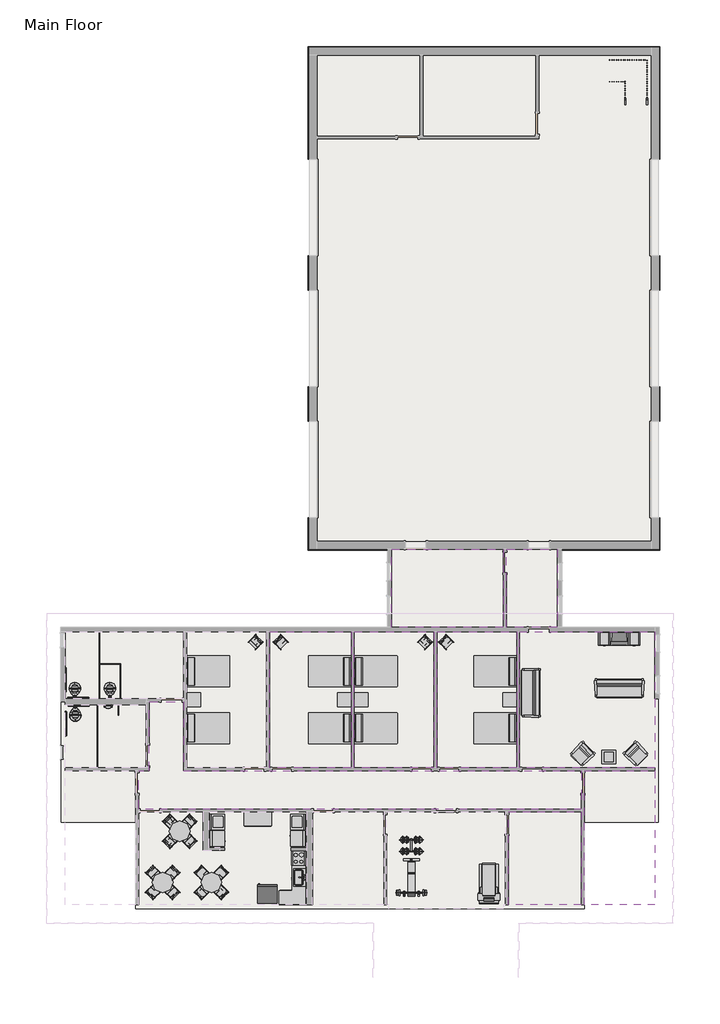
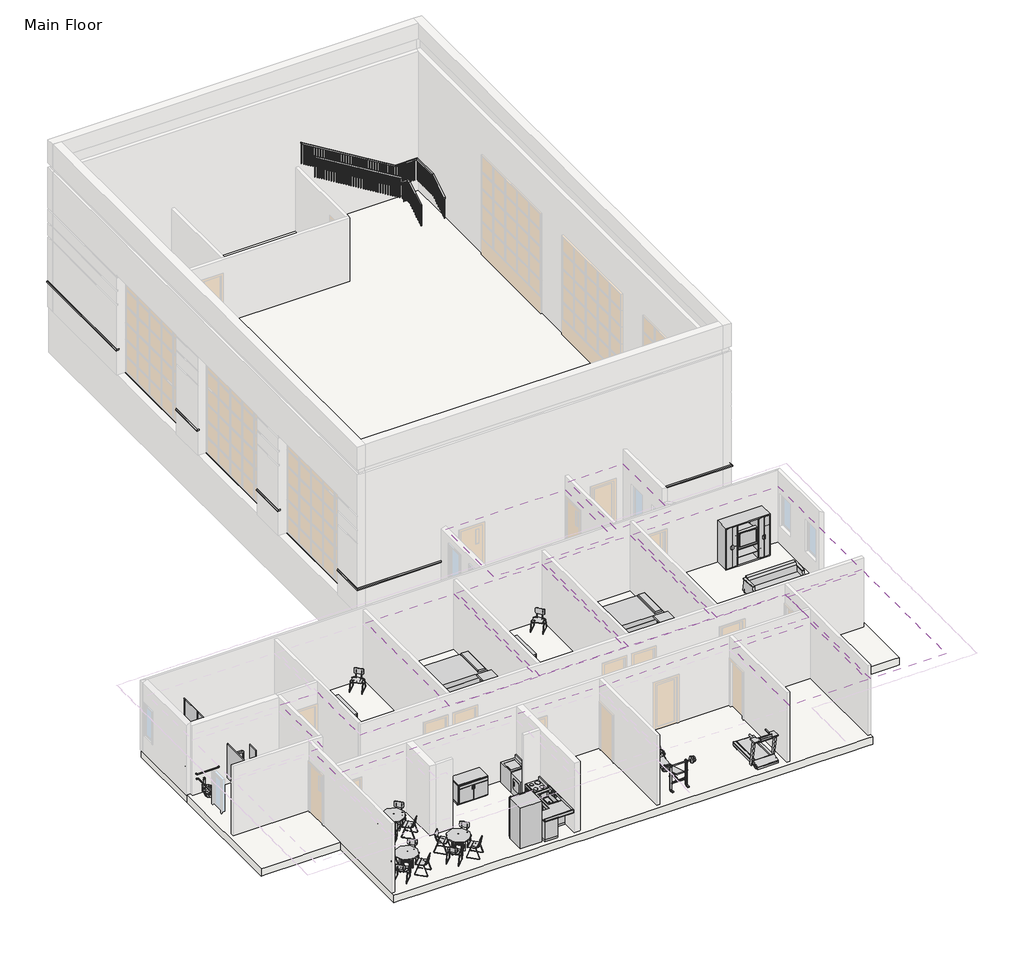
# One storey, part 3 of 3: 43 furniture elements, 19 proxies, 9 coverings, 5 flow terminals, 3 slabs, 2 railings.
"""IFC4 building model written with IfcOpenShell, lengths in millimetres."""

from ifc_helpers import new_model, si_unit, frame, origin, place, context, project, spatial, polyline, outline, extrude, faceted_brep, transform, mapped, element, save
from components import generic_models_a89b188b, proxy_d1f9c5cb, grab_bar_3d_grab_bar_3d_00f4341b, grab_bar_3d_grab_bar_3d_a3ed3e83, lifting_bench_lifting_bench_aed266a5, proxy_1dfdf5de, proxy_9109806d, proxy_7c43ef90, toilet_stall_accessible_side2_3d_80249481, proxy_d61e7b09, treadmill_treadmill_b01bba42, urinal_screen_3d_0714b669, proxy_c277ec9f, flow_terminal_4af5d52b, flow_terminal_35d0ae41, flow_terminal_6a37c47e, urinal_wall_3d_urinal_wall_3d_7ec34c28, furniture_81a1514d, furniture_f167ba72, furniture_94963ca6, furniture_0253826f, furniture_5d01f4a4, chair_stacking_chair_stacking_74314eac, chair_stacking_chair_stacking_724ac724, furniture_e91ff8d8, furniture_22e119cc, furniture_ddc78764, furniture_ec003247, furniture_6a91d5e0, furniture_fb1f61f5, furniture_b5c51a22, furniture_ed8ac5fb, furniture_5bc9ed15, furniture_00647945, furniture_099e81e9, handrail_rectangular_a6d9fd62, handrail_rectangular_f1ce3a24

model = new_model("IFC4")

# Units and contexts
model_context = context("Model", 3, world=origin())
ifc_project = project(units=[si_unit("LENGTHUNIT", "METRE", prefix="MILLI")], contexts=[model_context])

# Site, building, storey
site = spatial("IfcSite", under=ifc_project)
building = spatial("IfcBuilding", under=site)
storey = spatial("IfcBuildingStorey", under=building, Name="Main Floor", Elevation=42672.0)

# Proxies
placement = place(None, origin())
element("IfcBuildingElementProxy", 1, Name="Wall Sweeps", at=placement, inside=storey, context=model_context, shape_type="Brep", body=[
    faceted_brep([(-14757.4292336, 21962.9855156, 43808.65), (-14849.5042336, 22055.0605156, 43808.65), (-14884.4292336, 22089.9855156, 43764.2), (-14884.4292336, 22089.9855156, 43738.8), (-14757.4292336, 21962.9855156, 43738.8), (549.2457664, 21962.9855156, 43808.65), (549.2457664, 21962.9855156, 43738.8), (676.2457664, 22089.9855156, 43738.8), (676.2457664, 22089.9855156, 43764.2), (641.3207664, 22055.0605156, 43808.65), (288.8957664, 21962.9855156, 43808.65), (288.8957664, 21962.9855156, 43738.8)], [[[0, 1, 2, 3, 4]], [[5, 6, 7, 8, 9]], [[1, 0, 10, 5, 9]], [[2, 1, 9, 8]], [[3, 2, 8, 7]], [[4, 3, 7, 6, 11]], [[0, 4, 11, 6, 5, 10]]]),
])
element("IfcBuildingElementProxy", 2, Name="Wall Sweeps", at=placement, inside=storey, context=model_context, shape_type="Brep", body=[
    faceted_brep([(-14757.4292336, -49.2894844, 43808.65), (-14849.5042336, -141.3644844, 43808.65), (-14884.4292336, -176.2894844, 43764.2), (-14884.4292336, -176.2894844, 43738.8), (-14757.4292336, -49.2894844, 43738.8), (-14757.4292336, 1254.0480156, 43808.65), (-14757.4292336, 1254.0480156, 43738.8), (-14849.5042336, 1254.0480156, 43738.8), (-14884.4292336, 1254.0480156, 43738.8), (-14884.4292336, 1254.0480156, 43764.2), (-14849.5042336, 1254.0480156, 43808.65)], [[[0, 1, 2, 3, 4]], [[5, 6, 7, 8, 9, 10]], [[1, 0, 5, 10]], [[2, 1, 10, 9]], [[3, 2, 9, 8]], [[4, 3, 8, 7, 6]], [[0, 4, 6, 5]]]),
    faceted_brep([(-14757.4292336, 5521.2480156, 43808.65), (-14849.5042336, 5521.2480156, 43808.65), (-14884.4292336, 5521.2480156, 43764.2), (-14884.4292336, 5521.2480156, 43738.8), (-14849.5042336, 5521.2480156, 43738.8), (-14757.4292336, 5521.2480156, 43738.8), (-14757.4292336, 7045.2480156, 43808.65), (-14757.4292336, 7045.2480156, 43738.8), (-14849.5042336, 7045.2480156, 43738.8), (-14884.4292336, 7045.2480156, 43738.8), (-14884.4292336, 7045.2480156, 43764.2), (-14849.5042336, 7045.2480156, 43808.65)], [[[0, 1, 2, 3, 4, 5]], [[6, 7, 8, 9, 10, 11]], [[1, 0, 6, 11]], [[2, 1, 11, 10]], [[3, 2, 10, 9]], [[5, 4, 3, 9, 8, 7]], [[0, 5, 7, 6]]]),
    faceted_brep([(-14757.4292336, 11312.4480156, 43808.65), (-14849.5042336, 11312.4480156, 43808.65), (-14884.4292336, 11312.4480156, 43764.2), (-14884.4292336, 11312.4480156, 43738.8), (-14849.5042336, 11312.4480156, 43738.8), (-14757.4292336, 11312.4480156, 43738.8), (-14757.4292336, 12836.4480156, 43808.65), (-14757.4292336, 12836.4480156, 43738.8), (-14849.5042336, 12836.4480156, 43738.8), (-14884.4292336, 12836.4480156, 43738.8), (-14884.4292336, 12836.4480156, 43764.2), (-14849.5042336, 12836.4480156, 43808.65)], [[[0, 1, 2, 3, 4, 5]], [[6, 7, 8, 9, 10, 11]], [[1, 0, 6, 11]], [[2, 1, 11, 10]], [[3, 2, 10, 9]], [[5, 4, 3, 9, 8, 7]], [[0, 5, 7, 6]]]),
    faceted_brep([(-14757.4292336, 17103.6480156, 43808.65), (-14849.5042336, 17103.6480156, 43808.65), (-14884.4292336, 17103.6480156, 43764.2), (-14884.4292336, 17103.6480156, 43738.8), (-14849.5042336, 17103.6480156, 43738.8), (-14757.4292336, 17103.6480156, 43738.8), (-14757.4292336, 21962.9855156, 43808.65), (-14757.4292336, 21962.9855156, 43738.8), (-14884.4292336, 22089.9855156, 43738.8), (-14884.4292336, 22089.9855156, 43764.2), (-14849.5042336, 22055.0605156, 43808.65), (-14757.4292336, 21702.6355156, 43808.65), (-14757.4292336, 21702.6355156, 43738.8)], [[[0, 1, 2, 3, 4, 5]], [[6, 7, 8, 9, 10]], [[1, 0, 11, 6, 10]], [[2, 1, 10, 9]], [[3, 2, 9, 8]], [[5, 4, 3, 8, 7, 12]], [[0, 5, 12, 7, 6, 11]]]),
])
element("IfcBuildingElementProxy", 3, Name="Wall Sweeps", at=placement, inside=storey, context=model_context, shape_type="Brep", body=[
    faceted_brep([(549.2457664, -49.2894844, 43808.65), (641.3207664, -141.3644844, 43808.65), (676.2457664, -176.2894844, 43764.2), (676.2457664, -176.2894844, 43738.8), (549.2457664, -49.2894844, 43738.8), (-3668.7417336, -49.2894844, 43808.65), (-3668.7417336, -49.2894844, 43738.8), (-3668.7417336, -141.3644844, 43738.8), (-3668.7417336, -176.2894844, 43738.8), (-3668.7417336, -176.2894844, 43764.2), (-3668.7417336, -141.3644844, 43808.65), (288.8957664, -49.2894844, 43808.65), (288.8957664, -49.2894844, 43738.8)], [[[0, 1, 2, 3, 4]], [[5, 6, 7, 8, 9, 10]], [[1, 0, 11, 5, 10]], [[2, 1, 10, 9]], [[3, 2, 9, 8]], [[4, 3, 8, 7, 6, 12]], [[0, 4, 12, 6, 5, 11]]]),
    faceted_brep([(-11379.2292336, -49.2894844, 43808.65), (-11379.2292336, -141.3644844, 43808.65), (-11379.2292336, -176.2894844, 43764.2), (-11379.2292336, -176.2894844, 43738.8), (-11379.2292336, -141.3644844, 43738.8), (-11379.2292336, -49.2894844, 43738.8), (-14757.4292336, -49.2894844, 43808.65), (-14757.4292336, -49.2894844, 43738.8), (-14884.4292336, -176.2894844, 43738.8), (-14884.4292336, -176.2894844, 43764.2), (-14849.5042336, -141.3644844, 43808.65), (-14497.0792336, -49.2894844, 43808.65), (-14497.0792336, -49.2894844, 43738.8)], [[[0, 1, 2, 3, 4, 5]], [[6, 7, 8, 9, 10]], [[1, 0, 11, 6, 10]], [[2, 1, 10, 9]], [[3, 2, 9, 8]], [[5, 4, 3, 8, 7, 12]], [[0, 5, 12, 7, 6, 11]]]),
])
element("IfcBuildingElementProxy", 4, Name="Wall Sweeps", at=placement, inside=storey, context=model_context, shape_type="Brep", body=[
    faceted_brep([(549.2457664, 21962.9855156, 43808.65), (641.3207664, 22055.0605156, 43808.65), (676.2457664, 22089.9855156, 43764.2), (676.2457664, 22089.9855156, 43738.8), (549.2457664, 21962.9855156, 43738.8), (549.2457664, 17103.6480156, 43808.65), (549.2457664, 17103.6480156, 43738.8), (641.3207664, 17103.6480156, 43738.8), (676.2457664, 17103.6480156, 43738.8), (676.2457664, 17103.6480156, 43764.2), (641.3207664, 17103.6480156, 43808.65)], [[[0, 1, 2, 3, 4]], [[5, 6, 7, 8, 9, 10]], [[1, 0, 5, 10]], [[2, 1, 10, 9]], [[3, 2, 9, 8]], [[4, 3, 8, 7, 6]], [[0, 4, 6, 5]]]),
    faceted_brep([(549.2457664, 12836.4480156, 43808.65), (641.3207664, 12836.4480156, 43808.65), (676.2457664, 12836.4480156, 43764.2), (676.2457664, 12836.4480156, 43738.8), (641.3207664, 12836.4480156, 43738.8), (549.2457664, 12836.4480156, 43738.8), (549.2457664, 11312.4480156, 43808.65), (549.2457664, 11312.4480156, 43738.8), (641.3207664, 11312.4480156, 43738.8), (676.2457664, 11312.4480156, 43738.8), (676.2457664, 11312.4480156, 43764.2), (641.3207664, 11312.4480156, 43808.65)], [[[0, 1, 2, 3, 4, 5]], [[6, 7, 8, 9, 10, 11]], [[1, 0, 6, 11]], [[2, 1, 11, 10]], [[3, 2, 10, 9]], [[5, 4, 3, 9, 8, 7]], [[0, 5, 7, 6]]]),
    faceted_brep([(549.2457664, 7045.2480156, 43808.65), (641.3207664, 7045.2480156, 43808.65), (676.2457664, 7045.2480156, 43764.2), (676.2457664, 7045.2480156, 43738.8), (641.3207664, 7045.2480156, 43738.8), (549.2457664, 7045.2480156, 43738.8), (549.2457664, 5521.2480156, 43808.65), (549.2457664, 5521.2480156, 43738.8), (641.3207664, 5521.2480156, 43738.8), (676.2457664, 5521.2480156, 43738.8), (676.2457664, 5521.2480156, 43764.2), (641.3207664, 5521.2480156, 43808.65)], [[[0, 1, 2, 3, 4, 5]], [[6, 7, 8, 9, 10, 11]], [[1, 0, 6, 11]], [[2, 1, 11, 10]], [[3, 2, 10, 9]], [[5, 4, 3, 9, 8, 7]], [[0, 5, 7, 6]]]),
    faceted_brep([(549.2457664, 1254.0480156, 43808.65), (641.3207664, 1254.0480156, 43808.65), (676.2457664, 1254.0480156, 43764.2), (676.2457664, 1254.0480156, 43738.8), (641.3207664, 1254.0480156, 43738.8), (549.2457664, 1254.0480156, 43738.8), (549.2457664, -49.2894844, 43808.65), (549.2457664, -49.2894844, 43738.8), (676.2457664, -176.2894844, 43738.8), (676.2457664, -176.2894844, 43764.2), (641.3207664, -141.3644844, 43808.65)], [[[0, 1, 2, 3, 4, 5]], [[6, 7, 8, 9, 10]], [[1, 0, 6, 10]], [[2, 1, 10, 9]], [[3, 2, 9, 8]], [[5, 4, 3, 8, 7]], [[0, 5, 7, 6]]]),
])
generic_models_shape = generic_models_a89b188b(model_context)
element("IfcBuildingElementProxy", 5, Name="Weights-Multiple : Weights-Multiple", ObjectType="Weights-Multiple : Weights-Multiple", at=placement, inside=storey, context=model_context, shape_type="MappedRepresentation", body=[
    mapped(generic_models_shape, transform((-10317.1575596, -12985.0150905, 42672.0), x_axis=(0.0, -1.0, 0.0), y_axis=(1.0, 0.0, 0.0), z_axis=(0.0, 0.0, 1.0))),
])
proxy_shape = proxy_d1f9c5cb(model_context)
element("IfcBuildingElementProxy", 6, Name="Dryer : 27\" x 25\" x 35\"", ObjectType="Dryer : 27\" x 25\" x 35\"", at=placement, inside=storey, context=model_context, shape_type="MappedRepresentation", body=[
    mapped(proxy_shape, transform((-18587.7307298, -13299.7269407, 42672.0), x_axis=(0.0, 1.0, 0.0), y_axis=(-1.0, 0.0, 0.0), z_axis=(0.0, 0.0, 1.0))),
])
element("IfcBuildingElementProxy", 7, Name="Dryer : 27\" x 25\" x 35\"", ObjectType="Dryer : 27\" x 25\" x 35\"", at=placement, inside=storey, context=model_context, shape_type="MappedRepresentation", body=[
    mapped(proxy_shape, transform((-15656.8012307, -12541.7520281, 42672.0), x_axis=(0.0, -1.0, 0.0), y_axis=(1.0, 0.0, 0.0), z_axis=(0.0, 0.0, 1.0))),
])
grab_bar_3d_grab_bar_3d_shape = grab_bar_3d_grab_bar_3d_00f4341b(model_context)
element("IfcBuildingElementProxy", 8, Name="Grab Bar-3D : Grab Bar-3D", ObjectType="Grab Bar-3D : Grab Bar-3D", at=placement, inside=storey, context=model_context, shape_type="MappedRepresentation", body=[
    mapped(grab_bar_3d_grab_bar_3d_shape, transform((-25642.9167336, -7007.3019844, 42672.0), x_axis=(-1.0, 0.0, 0.0), y_axis=(0.0, -1.0, 0.0), z_axis=(0.0, 0.0, 1.0))),
])
grab_bar_3d_grab_bar_3d_2_shape = grab_bar_3d_grab_bar_3d_a3ed3e83(model_context)
element("IfcBuildingElementProxy", 9, Name="Grab Bar-3D : Grab Bar-3D", ObjectType="Grab Bar-3D : Grab Bar-3D", at=placement, inside=storey, context=model_context, shape_type="MappedRepresentation", body=[
    mapped(grab_bar_3d_grab_bar_3d_2_shape, transform((-25661.9667336, -6746.9519844, 42672.0), x_axis=(-1.0, 0.0, 0.0), y_axis=(0.0, -1.0, 0.0), z_axis=(0.0, 0.0, 1.0))),
])
lifting_bench_lifting_bench_shape = lifting_bench_lifting_bench_aed266a5(model_context)
element("IfcBuildingElementProxy", 10, Name="Lifting Bench : Lifting Bench", ObjectType="Lifting Bench : Lifting Bench", at=placement, inside=storey, context=model_context, shape_type="MappedRepresentation", body=[
    mapped(lifting_bench_lifting_bench_shape, transform((-10672.7575596, -13822.4394844, 42672.0), x_axis=(1.0, 0.0, 0.0), y_axis=(0.0, 1.0, 0.0), z_axis=(0.0, 0.0, 1.0))),
])
proxy_2_shape = proxy_1dfdf5de(model_context)
element("IfcBuildingElementProxy", 11, Name="Range : 24\" x 24\"", ObjectType="Range : 24\" x 24\"", at=placement, inside=storey, context=model_context, shape_type="MappedRepresentation", body=[
    mapped(proxy_2_shape, transform((-15609.9167336, -13492.2394844, 42672.0), x_axis=(0.0, -1.0, 0.0), y_axis=(1.0, 0.0, 0.0), z_axis=(0.0, 0.0, 1.0))),
])
proxy_3_shape = proxy_9109806d(model_context)
element("IfcBuildingElementProxy", 12, Name="Refrigerator : 35\" x 32\" RH", ObjectType="Refrigerator : 35\" x 32\" RH", at=placement, inside=storey, context=model_context, shape_type="MappedRepresentation", body=[
    mapped(proxy_3_shape, transform((-16688.7652351, -15389.6905129, 42672.0), x_axis=(-1.0, 0.0, 0.0), y_axis=(0.0, -1.0, 0.0), z_axis=(0.0, 0.0, 1.0))),
])
proxy_4_shape = proxy_7c43ef90(model_context)
element("IfcBuildingElementProxy", 13, Name="Toilet Stall-3D : 36\" x 60\" Clear", ObjectType="Toilet Stall-3D : 36\" x 60\" Clear", at=placement, inside=storey, context=model_context, shape_type="MappedRepresentation", body=[
    mapped(proxy_4_shape, transform((-23250.4635798, -6877.1269844, 42672.0), x_axis=(-1.0, 0.0, 0.0), y_axis=(0.0, -1.0, 0.0), z_axis=(0.0, 0.0, 1.0))),
])
toilet_stall_accessible_side2_3d_shape = toilet_stall_accessible_side2_3d_80249481(model_context)
element("IfcBuildingElementProxy", 14, Name="Toilet Stall-Accessible-Side2-3D : 60\" x  110\"", ObjectType="Toilet Stall-Accessible-Side2-3D : 60\" x  110\"", at=placement, inside=storey, context=model_context, shape_type="MappedRepresentation", body=[
    mapped(toilet_stall_accessible_side2_3d_shape, transform((-24874.4760798, -6877.1269844, 42672.0), x_axis=(-1.0, 0.0, 0.0), y_axis=(0.0, -1.0, 0.0), z_axis=(0.0, 0.0, 1.0))),
])
proxy_5_shape = proxy_d61e7b09(model_context)
element("IfcBuildingElementProxy", 15, Name="Toilet Stall-Accessible-Side2-3D : 60\" x 117\"", ObjectType="Toilet Stall-Accessible-Side2-3D : 60\" x 117\"", at=placement, inside=storey, context=model_context, shape_type="MappedRepresentation", body=[
    mapped(proxy_5_shape, transform((-24799.8635798, -6877.1269844, 42672.0), x_axis=(-1.0, 0.0, 0.0), y_axis=(0.0, -1.0, 0.0), z_axis=(0.0, 0.0, 1.0))),
])
treadmill_treadmill_shape = treadmill_treadmill_b01bba42(model_context)
element("IfcBuildingElementProxy", 16, Name="Treadmill : Treadmill", ObjectType="Treadmill : Treadmill", at=placement, inside=storey, context=model_context, shape_type="MappedRepresentation", body=[
    mapped(treadmill_treadmill_shape, transform((-7332.6917336, -15803.6394844, 42672.0), x_axis=(1.0, 0.0, 0.0), y_axis=(0.0, 1.0, 0.0), z_axis=(0.0, 0.0, 1.0))),
])
urinal_screen_3d_shape = urinal_screen_3d_0714b669(model_context)
element("IfcBuildingElementProxy", 17, Name="Urinal Screen-3D : 36\" O.C.", ObjectType="Urinal Screen-3D : 36\" O.C.", at=placement, inside=storey, context=model_context, shape_type="MappedRepresentation", body=[
    mapped(urinal_screen_3d_shape, transform((-23272.7792336, -6877.1269844, 42672.0), x_axis=(-1.0, 0.0, 0.0), y_axis=(0.0, -1.0, 0.0), z_axis=(0.0, 0.0, 1.0))),
])
proxy_6_shape = proxy_c277ec9f(model_context)
element("IfcBuildingElementProxy", 18, Name="Washer : 27\" x 25\" x 35\"", ObjectType="Washer : 27\" x 25\" x 35\"", at=placement, inside=storey, context=model_context, shape_type="MappedRepresentation", body=[
    mapped(proxy_6_shape, transform((-18623.2421688, -12604.5569529, 42672.0), x_axis=(0.0, 1.0, 0.0), y_axis=(-1.0, 0.0, 0.0), z_axis=(0.0, 0.0, 1.0))),
])
element("IfcBuildingElementProxy", 19, Name="Washer : 27\" x 25\" x 35\"", ObjectType="Washer : 27\" x 25\" x 35\"", at=placement, inside=storey, context=model_context, shape_type="MappedRepresentation", body=[
    mapped(proxy_6_shape, transform((-15621.2897917, -11763.7220159, 42672.0), x_axis=(0.0, -1.0, 0.0), y_axis=(1.0, 0.0, 0.0), z_axis=(0.0, 0.0, 1.0))),
])

# Coverings
element("IfcCovering", 20, ObjectType="2' x 2' ACT System", at=placement, inside=storey, context=model_context, shape_type="SweptSolid", body=[
    extrude(outline(polyline([(-2797.2042336, -11750.7519844), (-2797.2042336, -15862.3769844), (-6026.1792336, -15862.3769844), (-6026.1792336, -11750.7519844), (-2797.2042336, -11750.7519844)])), frame((0.0, 0.0, 45110.4), z_axis=(0.0, 0.0, 1.0), x_axis=(1.0, 0.0, 0.0)), (0.0, 0.0, 1.0), 57.15),
])
element("IfcCovering", 21, ObjectType="2' x 2' ACT System", at=placement, inside=storey, context=model_context, shape_type="SweptSolid", body=[
    extrude(outline(polyline([(-5529.2917336, -3778.3269844), (461.9332664, -3778.3269844), (461.9332664, -6746.9519844), (461.9332664, -9798.1269844), (-5529.2917336, -9798.1269844), (-5529.2917336, -3778.3269844)])), frame((0.0, 0.0, 45110.4), z_axis=(0.0, 0.0, 1.0), x_axis=(1.0, 0.0, 0.0)), (0.0, 0.0, 1.0), 57.15),
])
element("IfcCovering", 22, ObjectType="2' x 2' ACT System", at=placement, inside=storey, context=model_context, shape_type="SweptSolid", body=[
    extrude(outline(polyline([(-9186.8917336, -3778.3269844), (-5653.1167336, -3778.3269844), (-5653.1167336, -9798.1269844), (-9186.8917336, -9798.1269844), (-9186.8917336, -3778.3269844)])), frame((0.0, 0.0, 45110.4), z_axis=(0.0, 0.0, 1.0), x_axis=(1.0, 0.0, 0.0)), (0.0, 0.0, 1.0), 57.15),
])
element("IfcCovering", 23, ObjectType="2' x 2' ACT System", at=placement, inside=storey, context=model_context, shape_type="SweptSolid", body=[
    extrude(outline(polyline([(-12844.4917336, -3778.3269844), (-9310.7167336, -3778.3269844), (-9310.7167336, -9798.1269844), (-12844.4917336, -9798.1269844), (-12844.4917336, -3778.3269844)])), frame((0.0, 0.0, 45110.4), z_axis=(0.0, 0.0, 1.0), x_axis=(1.0, 0.0, 0.0)), (0.0, 0.0, 1.0), 57.15),
])
element("IfcCovering", 24, ObjectType="2' x 2' ACT System", at=placement, inside=storey, context=model_context, shape_type="SweptSolid", body=[
    extrude(outline(polyline([(-16592.5792336, -3778.3269844), (-12968.3167336, -3778.3269844), (-12968.3167336, -9798.1269844), (-16592.5792336, -9798.1269844), (-16592.5792336, -3778.3269844)])), frame((0.0, 0.0, 45110.4), z_axis=(0.0, 0.0, 1.0), x_axis=(1.0, 0.0, 0.0)), (0.0, 0.0, 1.0), 57.15),
])
element("IfcCovering", 25, ObjectType="GWB on Mtl. Stud", at=placement, inside=storey, context=model_context, shape_type="SweptSolid", body=[
    extrude(outline(polyline([(461.9332664, -15862.3769844), (-2673.3792336, -15862.3769844), (-2673.3792336, -9921.9519844), (461.9332664, -9921.9519844), (461.9332664, -15862.3769844)])), frame((0.0, 0.0, 45110.4), z_axis=(0.0, 0.0, 1.0), x_axis=(1.0, 0.0, 0.0)), (0.0, 0.0, 1.0), 107.95),
])
element("IfcCovering", 26, ObjectType="GWB on Mtl. Stud", at=placement, inside=storey, context=model_context, shape_type="SweptSolid", body=[
    extrude(outline(polyline([(-20385.1167336, -6870.7769844), (-20385.1167336, -9921.9519844), (-2797.2042336, -9921.9519844), (-2797.2042336, -11626.9269844), (-22383.7792336, -11626.9269844), (-22383.7792336, -9921.9519844), (-21926.5792336, -9921.9519844), (-21926.5792336, -6870.7769844), (-20385.1167336, -6870.7769844)])), frame((0.0, 0.0, 45262.8), z_axis=(0.0, 0.0, 1.0), x_axis=(1.0, 0.0, 0.0)), (0.0, 0.0, 1.0), 107.95),
])
element("IfcCovering", 27, ObjectType="GWB on Mtl. Stud", at=placement, inside=storey, context=model_context, shape_type="SweptSolid", body=[
    extrude(outline(polyline([(-6243.6667336, -141.3644844), (-6243.6667336, -3591.0019844), (-11191.9042336, -3591.0019844), (-11191.9042336, -141.3644844), (-6243.6667336, -141.3644844)])), frame((0.0, 0.0, 45110.4), z_axis=(0.0, 0.0, 1.0), x_axis=(1.0, 0.0, 0.0)), (0.0, 0.0, 1.0), 107.95),
])
element("IfcCovering", 28, ObjectType="GWB on Mtl. Stud", at=placement, inside=storey, context=model_context, shape_type="SweptSolid", body=[
    extrude(outline(polyline([(-3856.0667336, -3591.0019844), (-6119.8417336, -3591.0019844), (-6119.8417336, -141.3644844), (-3856.0667336, -141.3644844), (-3856.0667336, -3591.0019844)])), frame((0.0, 0.0, 45415.2), z_axis=(0.0, 0.0, 1.0), x_axis=(1.0, 0.0, 0.0)), (0.0, 0.0, 1.0), 107.95),
])

# Flow terminals
flow_terminal_shape = flow_terminal_4af5d52b(model_context)
element("IfcFlowTerminal", 29, ObjectType="Sink Kitchen-Single : 30\" x 21\"", at=placement, inside=storey, context=model_context, shape_type="MappedRepresentation", body=[
    mapped(flow_terminal_shape, transform((-15275.7121347, -14627.4877439, 42672.0), x_axis=(0.0, -1.0, 0.0), y_axis=(1.0, 0.0, 0.0), z_axis=(0.0, 0.0, 1.0))),
])
flow_terminal_2_shape = flow_terminal_35d0ae41(model_context)
element("IfcFlowTerminal", 30, ObjectType="Toilet-Commercial-Wall-3D : 15\" Seat Height", at=placement, inside=storey, context=model_context, shape_type="MappedRepresentation", body=[
    mapped(flow_terminal_2_shape, transform((-24060.2698874, -6877.1269844, 42672.0), x_axis=(1.0, 0.0, 0.0), y_axis=(0.0, 1.0, 0.0), z_axis=(0.0, 0.0, 1.0))),
])
element("IfcFlowTerminal", 31, ObjectType="Toilet-Commercial-Wall-3D : 15\" Seat Height", at=placement, inside=storey, context=model_context, shape_type="MappedRepresentation", body=[
    mapped(flow_terminal_2_shape, transform((-24780.8135798, -6877.1269844, 42672.0), x_axis=(-1.0, 0.0, 0.0), y_axis=(0.0, -1.0, 0.0), z_axis=(0.0, 0.0, 1.0))),
])
flow_terminal_3_shape = flow_terminal_6a37c47e(model_context)
element("IfcFlowTerminal", 32, ObjectType="Toilet-Commercial-Wall-3D : 19\" Seat Height", at=placement, inside=storey, context=model_context, shape_type="MappedRepresentation", body=[
    mapped(flow_terminal_3_shape, transform((-25609.6698874, -6877.1269844, 42672.0), x_axis=(1.0, 0.0, 0.0), y_axis=(0.0, 1.0, 0.0), z_axis=(0.0, 0.0, 1.0))),
])
urinal_wall_3d_urinal_wall_3d_shape = urinal_wall_3d_urinal_wall_3d_7ec34c28(model_context)
element("IfcFlowTerminal", 33, ObjectType="Urinal-Wall-3D : Urinal-Wall-3D", at=placement, inside=storey, context=model_context, shape_type="MappedRepresentation", body=[
    mapped(urinal_wall_3d_urinal_wall_3d_shape, transform((-23839.0538334, -6877.1269844, 42672.0), x_axis=(-1.0, 0.0, 0.0), y_axis=(0.0, -1.0, 0.0), z_axis=(0.0, 0.0, 1.0))),
])

# Furniture
furniture_shape = furniture_81a1514d(model_context)
element("IfcFurniture", 34, ObjectType="Base Cabinet-4 Drawers : 21\"", at=placement, inside=storey, context=model_context, shape_type="MappedRepresentation", body=[
    mapped(furniture_shape, transform((-15870.5790287, -15836.9769844, 42672.0), x_axis=(-1.0, 0.0, 0.0), y_axis=(0.0, -1.0, 0.0), z_axis=(0.0, 0.0, 1.0))),
])
furniture_2_shape = furniture_f167ba72(model_context)
element("IfcFurniture", 35, ObjectType="Base Cabinet-Double Door Sink Unit : 42\"", at=placement, inside=storey, context=model_context, shape_type="MappedRepresentation", body=[
    mapped(furniture_2_shape, transform((-14981.2667336, -14687.9392795, 42672.0), x_axis=(0.0, -1.0, 0.0), y_axis=(1.0, 0.0, 0.0), z_axis=(0.0, 0.0, 1.0))),
])
furniture_3_shape = furniture_94963ca6(model_context)
element("IfcFurniture", 36, ObjectType="Base Cabinet-Double Door Sink Unit : 48\"", at=placement, inside=storey, context=model_context, shape_type="MappedRepresentation", body=[
    mapped(furniture_3_shape, transform((-17130.4294385, -11750.7519844, 42672.0), x_axis=(1.0, 0.0, 0.0), y_axis=(0.0, 1.0, 0.0), z_axis=(0.0, 0.0, 1.0))),
])
furniture_4_shape = furniture_0253826f(model_context)
element("IfcFurniture", 37, ObjectType="Bed-Standard : Double 54\" x 75\"", at=placement, inside=storey, context=model_context, shape_type="MappedRepresentation", body=[
    mapped(furniture_4_shape, transform((-19354.3868155, -5802.415509, 42672.0), x_axis=(0.0, 1.0, 0.0), y_axis=(-1.0, 0.0, 0.0), z_axis=(0.0, 0.0, 1.0))),
])
element("IfcFurniture", 38, ObjectType="Bed-Standard : Double 54\" x 75\"", at=placement, inside=storey, context=model_context, shape_type="MappedRepresentation", body=[
    mapped(furniture_4_shape, transform((-19354.3868155, -8317.015509, 42672.0), x_axis=(0.0, 1.0, 0.0), y_axis=(-1.0, 0.0, 0.0), z_axis=(0.0, 0.0, 1.0))),
])
element("IfcFurniture", 39, ObjectType="Bed-Standard : Double 54\" x 75\"", at=placement, inside=storey, context=model_context, shape_type="MappedRepresentation", body=[
    mapped(furniture_4_shape, transform((-11937.5868155, -5802.415509, 42672.0), x_axis=(0.0, 1.0, 0.0), y_axis=(-1.0, 0.0, 0.0), z_axis=(0.0, 0.0, 1.0))),
])
element("IfcFurniture", 40, ObjectType="Bed-Standard : Double 54\" x 75\"", at=placement, inside=storey, context=model_context, shape_type="MappedRepresentation", body=[
    mapped(furniture_4_shape, transform((-11937.5868155, -8317.015509, 42672.0), x_axis=(0.0, 1.0, 0.0), y_axis=(-1.0, 0.0, 0.0), z_axis=(0.0, 0.0, 1.0))),
])
furniture_5_shape = furniture_5d01f4a4(model_context)
element("IfcFurniture", 41, ObjectType="Bed-Standard : Double 54\" x 75\"", at=placement, inside=storey, context=model_context, shape_type="MappedRepresentation", body=[
    mapped(furniture_5_shape, transform((-13875.2216516, -5802.415509, 42672.0), x_axis=(0.0, 1.0, 0.0), y_axis=(-1.0, 0.0, 0.0), z_axis=(0.0, 0.0, 1.0))),
])
element("IfcFurniture", 42, ObjectType="Bed-Standard : Double 54\" x 75\"", at=placement, inside=storey, context=model_context, shape_type="MappedRepresentation", body=[
    mapped(furniture_5_shape, transform((-13875.2216516, -8317.015509, 42672.0), x_axis=(0.0, 1.0, 0.0), y_axis=(-1.0, 0.0, 0.0), z_axis=(0.0, 0.0, 1.0))),
])
element("IfcFurniture", 43, ObjectType="Bed-Standard : Double 54\" x 75\"", at=placement, inside=storey, context=model_context, shape_type="MappedRepresentation", body=[
    mapped(furniture_5_shape, transform((-6560.0216516, -5802.415509, 42672.0), x_axis=(0.0, 1.0, 0.0), y_axis=(-1.0, 0.0, 0.0), z_axis=(0.0, 0.0, 1.0))),
])
element("IfcFurniture", 44, ObjectType="Bed-Standard : Double 54\" x 75\"", at=placement, inside=storey, context=model_context, shape_type="MappedRepresentation", body=[
    mapped(furniture_5_shape, transform((-6560.0216516, -8317.015509, 42672.0), x_axis=(0.0, 1.0, 0.0), y_axis=(-1.0, 0.0, 0.0), z_axis=(0.0, 0.0, 1.0))),
])
chair_stacking_chair_stacking_shape = chair_stacking_chair_stacking_74314eac(model_context)
element("IfcFurniture", 45, ObjectType="Chair-Stacking : Chair-Stacking", at=placement, inside=storey, context=model_context, shape_type="MappedRepresentation", body=[
    mapped(chair_stacking_chair_stacking_shape, transform((-20947.5633144, -13237.9248444, 42672.0), x_axis=(0.7071067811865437, -0.7071067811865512, 0.0), y_axis=(0.7071067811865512, 0.7071067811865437, 0.0), z_axis=(0.0, 0.0, 1.0))),
])
element("IfcFurniture", 46, ObjectType="Chair-Stacking : Chair-Stacking", at=placement, inside=storey, context=model_context, shape_type="MappedRepresentation", body=[
    mapped(chair_stacking_chair_stacking_shape, transform((-19930.6354659, -12983.4254981, 42672.0), x_axis=(0.7056739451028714, 0.708536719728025, 0.0), y_axis=(-0.708536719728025, 0.7056739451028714, 0.0), z_axis=(0.0, 0.0, 1.0))),
])
element("IfcFurniture", 47, ObjectType="Chair-Stacking : Chair-Stacking", at=placement, inside=storey, context=model_context, shape_type="MappedRepresentation", body=[
    mapped(chair_stacking_chair_stacking_shape, transform((-20184.6201527, -11968.5541244, 42672.0), x_axis=(-0.7071067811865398, 0.7071067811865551, 0.0), y_axis=(-0.7071067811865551, -0.7071067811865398, 0.0), z_axis=(0.0, 0.0, 1.0))),
])
element("IfcFurniture", 48, ObjectType="Chair-Stacking : Chair-Stacking", at=placement, inside=storey, context=model_context, shape_type="MappedRepresentation", body=[
    mapped(chair_stacking_chair_stacking_shape, transform((-21201.5480013, -12223.0534707, 42672.0), x_axis=(-0.7056739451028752, -0.7085367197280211, 0.0), y_axis=(0.7085367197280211, -0.7056739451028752, 0.0), z_axis=(0.0, 0.0, 1.0))),
])
element("IfcFurniture", 49, ObjectType="Chair-Stacking : Chair-Stacking", at=placement, inside=storey, context=model_context, shape_type="MappedRepresentation", body=[
    mapped(chair_stacking_chair_stacking_shape, transform((-21701.9048286, -15500.9493869, 42672.0), x_axis=(0.7071067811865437, -0.7071067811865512, 0.0), y_axis=(0.7071067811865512, 0.7071067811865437, 0.0), z_axis=(0.0, 0.0, 1.0))),
])
element("IfcFurniture", 50, ObjectType="Chair-Stacking : Chair-Stacking", at=placement, inside=storey, context=model_context, shape_type="MappedRepresentation", body=[
    mapped(chair_stacking_chair_stacking_shape, transform((-20684.97698, -15246.4500406, 42672.0), x_axis=(0.7056739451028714, 0.708536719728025, 0.0), y_axis=(-0.708536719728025, 0.7056739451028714, 0.0), z_axis=(0.0, 0.0, 1.0))),
])
element("IfcFurniture", 51, ObjectType="Chair-Stacking : Chair-Stacking", at=placement, inside=storey, context=model_context, shape_type="MappedRepresentation", body=[
    mapped(chair_stacking_chair_stacking_shape, transform((-20938.9616669, -14231.5786669, 42672.0), x_axis=(-0.7071067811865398, 0.7071067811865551, 0.0), y_axis=(-0.7071067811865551, -0.7071067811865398, 0.0), z_axis=(0.0, 0.0, 1.0))),
])
element("IfcFurniture", 52, ObjectType="Chair-Stacking : Chair-Stacking", at=placement, inside=storey, context=model_context, shape_type="MappedRepresentation", body=[
    mapped(chair_stacking_chair_stacking_shape, transform((-21955.8895154, -14486.0780132, 42672.0), x_axis=(-0.7056739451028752, -0.7085367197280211, 0.0), y_axis=(0.7085367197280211, -0.7056739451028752, 0.0), z_axis=(0.0, 0.0, 1.0))),
])
element("IfcFurniture", 53, ObjectType="Chair-Stacking : Chair-Stacking", at=placement, inside=storey, context=model_context, shape_type="MappedRepresentation", body=[
    mapped(chair_stacking_chair_stacking_shape, transform((-19546.6433595, -15500.9493869, 42672.0), x_axis=(0.7071067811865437, -0.7071067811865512, 0.0), y_axis=(0.7071067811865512, 0.7071067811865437, 0.0), z_axis=(0.0, 0.0, 1.0))),
])
element("IfcFurniture", 54, ObjectType="Chair-Stacking : Chair-Stacking", at=placement, inside=storey, context=model_context, shape_type="MappedRepresentation", body=[
    mapped(chair_stacking_chair_stacking_shape, transform((-18529.715511, -15246.4500406, 42672.0), x_axis=(0.7056739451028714, 0.708536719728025, 0.0), y_axis=(-0.708536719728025, 0.7056739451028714, 0.0), z_axis=(0.0, 0.0, 1.0))),
])
element("IfcFurniture", 55, ObjectType="Chair-Stacking : Chair-Stacking", at=placement, inside=storey, context=model_context, shape_type="MappedRepresentation", body=[
    mapped(chair_stacking_chair_stacking_shape, transform((-18783.7001978, -14231.5786669, 42672.0), x_axis=(-0.7071067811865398, 0.7071067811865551, 0.0), y_axis=(-0.7071067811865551, -0.7071067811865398, 0.0), z_axis=(0.0, 0.0, 1.0))),
])
element("IfcFurniture", 56, ObjectType="Chair-Stacking : Chair-Stacking", at=placement, inside=storey, context=model_context, shape_type="MappedRepresentation", body=[
    mapped(chair_stacking_chair_stacking_shape, transform((-19800.6280464, -14486.0780132, 42672.0), x_axis=(-0.7056739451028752, -0.7085367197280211, 0.0), y_axis=(0.7085367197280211, -0.7056739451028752, 0.0), z_axis=(0.0, 0.0, 1.0))),
])
element("IfcFurniture", 57, ObjectType="Chair-Stacking : Chair-Stacking", at=placement, inside=storey, context=model_context, shape_type="MappedRepresentation", body=[
    mapped(chair_stacking_chair_stacking_shape, transform((-17259.7014202, -4036.7853529, 42672.0), x_axis=(-0.7071067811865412, 0.7071067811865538, 0.0), y_axis=(-0.7071067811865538, -0.7071067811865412, 0.0), z_axis=(0.0, 0.0, 1.0))),
])
element("IfcFurniture", 58, ObjectType="Chair-Stacking : Chair-Stacking", at=placement, inside=storey, context=model_context, shape_type="MappedRepresentation", body=[
    mapped(chair_stacking_chair_stacking_shape, transform((-9763.5264202, -4036.7853529, 42672.0), x_axis=(-0.7071067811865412, 0.7071067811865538, 0.0), y_axis=(-0.7071067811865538, -0.7071067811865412, 0.0), z_axis=(0.0, 0.0, 1.0))),
])
chair_stacking_chair_stacking_2_shape = chair_stacking_chair_stacking_724ac724(model_context)
element("IfcFurniture", 59, ObjectType="Chair-Stacking : Chair-Stacking", at=placement, inside=storey, context=model_context, shape_type="MappedRepresentation", body=[
    mapped(chair_stacking_chair_stacking_2_shape, transform((-16049.2820469, -4036.7853529, 42672.0), x_axis=(0.7071067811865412, 0.7071067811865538, 0.0), y_axis=(-0.7071067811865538, 0.7071067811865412, 0.0), z_axis=(0.0, 0.0, 1.0))),
])
element("IfcFurniture", 60, ObjectType="Chair-Stacking : Chair-Stacking", at=placement, inside=storey, context=model_context, shape_type="MappedRepresentation", body=[
    mapped(chair_stacking_chair_stacking_2_shape, transform((-8734.0820469, -4036.7853529, 42672.0), x_axis=(0.7071067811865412, 0.7071067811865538, 0.0), y_axis=(-0.7071067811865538, 0.7071067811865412, 0.0), z_axis=(0.0, 0.0, 1.0))),
])
furniture_6_shape = furniture_e91ff8d8(model_context)
element("IfcFurniture", 61, ObjectType="Counter Top : 24\" Depth", at=placement, inside=storey, context=model_context, shape_type="MappedRepresentation", body=[
    mapped(furniture_6_shape, transform((-16520.8294385, -11725.3519844, 42672.0), x_axis=(1.0, 0.0, 0.0), y_axis=(0.0, 1.0, 0.0), z_axis=(0.0, 0.0, 1.0))),
])
furniture_7_shape = furniture_22e119cc(model_context)
element("IfcFurniture", 62, ObjectType="Counter Top-L Shaped w Sink Hole : 24\" Depth", at=placement, inside=storey, context=model_context, shape_type="MappedRepresentation", body=[
    mapped(furniture_7_shape, transform((-14955.8667336, -14661.9146893, 42672.0), x_axis=(0.0, 1.0, 0.0), y_axis=(-1.0, 0.0, 0.0), z_axis=(0.0, 0.0, 1.0))),
])
furniture_8_shape = furniture_ddc78764(model_context)
element("IfcFurniture", 63, ObjectType="Entertainment Center : 72\" x 72\" x 24\"", at=placement, inside=storey, context=model_context, shape_type="MappedRepresentation", body=[
    mapped(furniture_8_shape, transform((-1120.8042336, -3676.7269844, 42672.0), x_axis=(1.0, 0.0, 0.0), y_axis=(0.0, 1.0, 0.0), z_axis=(0.0, 0.0, 1.0))),
])
furniture_9_shape = furniture_ec003247(model_context)
element("IfcFurniture", 64, ObjectType="Sofa-Pensi : 30\"", at=placement, inside=storey, context=model_context, shape_type="MappedRepresentation", body=[
    mapped(furniture_9_shape, transform((-385.0836854, -9573.7187699, 42672.0), x_axis=(0.7071067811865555, 0.7071067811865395, 0.0), y_axis=(-0.7071067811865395, 0.7071067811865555, 0.0), z_axis=(0.0, 0.0, 1.0))),
])
furniture_10_shape = furniture_6a91d5e0(model_context)
element("IfcFurniture", 65, ObjectType="Sofa-Pensi : 30\"", at=placement, inside=storey, context=model_context, shape_type="MappedRepresentation", body=[
    mapped(furniture_10_shape, transform((-2748.3032298, -9573.7187699, 42672.0), x_axis=(-0.7071067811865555, 0.7071067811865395, 0.0), y_axis=(-0.7071067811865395, -0.7071067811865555, 0.0), z_axis=(0.0, 0.0, 1.0))),
])
furniture_11_shape = furniture_fb1f61f5(model_context)
element("IfcFurniture", 66, ObjectType="Sofa-Pensi : 84\"", at=placement, inside=storey, context=model_context, shape_type="MappedRepresentation", body=[
    mapped(furniture_11_shape, transform((-1399.4104836, -6552.5743205, 42672.0), x_axis=(1.0, 0.0, 0.0), y_axis=(0.0, 1.0, 0.0), z_axis=(0.0, 0.0, 1.0))),
])
element("IfcFurniture", 67, ObjectType="Sofa-Pensi : 84\"", at=placement, inside=storey, context=model_context, shape_type="MappedRepresentation", body=[
    mapped(furniture_11_shape, transform((-5309.5140696, -6202.4855282, 42672.0), x_axis=(0.0, -1.0, 0.0), y_axis=(1.0, 0.0, 0.0), z_axis=(0.0, 0.0, 1.0))),
])
furniture_12_shape = furniture_b5c51a22(model_context)
element("IfcFurniture", 68, ObjectType="Table-Coffee : 24\" x 24\" x 24\"", at=placement, inside=storey, context=model_context, shape_type="MappedRepresentation", body=[
    mapped(furniture_12_shape, transform((-1596.2700002, -9418.6755622, 42672.0), x_axis=(1.0, 0.0, 0.0), y_axis=(0.0, 1.0, 0.0), z_axis=(0.0, 0.0, 1.0))),
])
furniture_13_shape = furniture_ed8ac5fb(model_context)
element("IfcFurniture", 69, ObjectType="Table-Dining Round : 36\" Diameter", at=placement, inside=storey, context=model_context, shape_type="MappedRepresentation", body=[
    mapped(furniture_13_shape, transform((-20508.6769813, -12399.196288, 42672.0), x_axis=(0.7071067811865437, -0.7071067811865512, 0.0), y_axis=(0.7071067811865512, 0.7071067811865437, 0.0), z_axis=(0.0, 0.0, 1.0))),
])
element("IfcFurniture", 70, ObjectType="Table-Dining Round : 36\" Diameter", at=placement, inside=storey, context=model_context, shape_type="MappedRepresentation", body=[
    mapped(furniture_13_shape, transform((-21263.0184955, -14662.2208305, 42672.0), x_axis=(0.7071067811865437, -0.7071067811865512, 0.0), y_axis=(0.7071067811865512, 0.7071067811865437, 0.0), z_axis=(0.0, 0.0, 1.0))),
])
element("IfcFurniture", 71, ObjectType="Table-Dining Round : 36\" Diameter", at=placement, inside=storey, context=model_context, shape_type="MappedRepresentation", body=[
    mapped(furniture_13_shape, transform((-19107.7570264, -14662.2208305, 42672.0), x_axis=(0.7071067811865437, -0.7071067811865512, 0.0), y_axis=(0.7071067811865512, 0.7071067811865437, 0.0), z_axis=(0.0, 0.0, 1.0))),
])
furniture_14_shape = furniture_5bc9ed15(model_context)
element("IfcFurniture", 72, ObjectType="Table-Night Stand : 24\" x 24\" x 30\"", at=placement, inside=storey, context=model_context, shape_type="MappedRepresentation", body=[
    mapped(furniture_14_shape, transform((-20265.0253639, -7093.0269844, 42672.0), x_axis=(1.0, 0.0, 0.0), y_axis=(0.0, 1.0, 0.0), z_axis=(0.0, 0.0, 1.0))),
])
element("IfcFurniture", 73, ObjectType="Table-Night Stand : 24\" x 24\" x 30\"", at=placement, inside=storey, context=model_context, shape_type="MappedRepresentation", body=[
    mapped(furniture_14_shape, transform((-12848.2253639, -7093.0269844, 42672.0), x_axis=(1.0, 0.0, 0.0), y_axis=(0.0, 1.0, 0.0), z_axis=(0.0, 0.0, 1.0))),
])
furniture_15_shape = furniture_00647945(model_context)
element("IfcFurniture", 74, ObjectType="Table-Night Stand : 24\" x 24\" x 30\"", at=placement, inside=storey, context=model_context, shape_type="MappedRepresentation", body=[
    mapped(furniture_15_shape, transform((-12964.5831033, -7093.0269844, 42672.0), x_axis=(-1.0, 0.0, 0.0), y_axis=(0.0, -1.0, 0.0), z_axis=(0.0, 0.0, 1.0))),
])
element("IfcFurniture", 75, ObjectType="Table-Night Stand : 24\" x 24\" x 30\"", at=placement, inside=storey, context=model_context, shape_type="MappedRepresentation", body=[
    mapped(furniture_15_shape, transform((-5649.3831033, -7093.0269844, 42672.0), x_axis=(-1.0, 0.0, 0.0), y_axis=(0.0, -1.0, 0.0), z_axis=(0.0, 0.0, 1.0))),
])
furniture_16_shape = furniture_099e81e9(model_context)
element("IfcFurniture", 76, ObjectType="Television : 32\"", at=placement, inside=storey, context=model_context, shape_type="MappedRepresentation", body=[
    mapped(furniture_16_shape, transform((-1120.8042336, -4020.4207344, 43408.6), x_axis=(1.0, 0.0, 0.0), y_axis=(0.0, 1.0, 0.0), z_axis=(0.0, 0.0, 1.0))),
])

# Railings
handrail_rectangular_shape = handrail_rectangular_a6d9fd62(model_context)
element("IfcRailing", 77, ObjectType="Handrail - Rectangular", at=placement, inside=storey, context=model_context, shape_type="MappedRepresentation", body=[
    mapped(handrail_rectangular_shape, transform((0.0, 0.0, 0.0), x_axis=(1.0, 0.0, 0.0), y_axis=(0.0, 1.0, 0.0), z_axis=(0.0, 0.0, 1.0))),
])
handrail_rectangular_2_shape = handrail_rectangular_f1ce3a24(model_context)
element("IfcRailing", 78, ObjectType="Handrail - Rectangular", at=placement, inside=storey, context=model_context, shape_type="MappedRepresentation", body=[
    mapped(handrail_rectangular_2_shape, transform((0.0, 0.0, 0.0), x_axis=(1.0, 0.0, 0.0), y_axis=(0.0, 1.0, 0.0), z_axis=(0.0, 0.0, 1.0))),
])

# Slabs
element("IfcSlab", 79, ObjectType="Wood Truss  Joist 12\" - Carpet Finish ", at=placement, inside=storey, context=model_context, shape_type="Brep", body=[
    faceted_brep([(-25798.4917336, -6877.1269844, 42348.15), (-25798.4917336, -3622.7519844, 42348.15), (617.5082664, -3622.7519844, 42348.15), (617.5082664, -6746.9519844, 42348.15), (617.5082664, -7040.6394844, 42348.15), (617.5082664, -7802.6394844, 42348.15), (617.5082664, -8869.4394844, 42348.15), (617.5082664, -9631.4394844, 42348.15), (617.5082664, -12204.7769844, 42348.15), (461.9332664, -12204.7769844, 42348.15), (-2673.3792336, -12204.7769844, 42348.15), (-2673.3792336, -15862.3769844, 42348.15), (-2673.3792336, -16017.9519844, 42348.15), (-2887.6917336, -16017.9519844, 42348.15), (-3802.0917336, -16017.9519844, 42348.15), (-5021.2917336, -16017.9519844, 42348.15), (-5935.6917336, -16017.9519844, 42348.15), (-6245.2542336, -16017.9519844, 42348.15), (-11315.7292336, -16017.9519844, 42348.15), (-11625.2917336, -16017.9519844, 42348.15), (-12539.6917336, -16017.9519844, 42348.15), (-13758.8917336, -16017.9519844, 42348.15), (-14673.2917336, -16017.9519844, 42348.15), (-14978.0917336, -16017.9519844, 42348.15), (-15892.4917336, -16017.9519844, 42348.15), (-17111.6917336, -16017.9519844, 42348.15), (-18026.0917336, -16017.9519844, 42348.15), (-18330.8917336, -16017.9519844, 42348.15), (-19245.2917336, -16017.9519844, 42348.15), (-21378.8917336, -16017.9519844, 42348.15), (-22293.2917336, -16017.9519844, 42348.15), (-22507.6042336, -16017.9519844, 42348.15), (-22507.6042336, -15862.3769844, 42348.15), (-22507.6042336, -12204.7769844, 42348.15), (-25642.9167336, -12204.7769844, 42348.15), (-25798.4917336, -12204.7769844, 42348.15), (-25798.4917336, -6877.1269844, 42672.0), (-25798.4917336, -12204.7769844, 42672.0), (-25642.9167336, -12204.7769844, 42672.0), (-22507.6042336, -12204.7769844, 42672.0), (-22507.6042336, -15862.3769844, 42672.0), (-22507.6042336, -16017.9519844, 42672.0), (-22293.2917336, -16017.9519844, 42672.0), (-21378.8917336, -16017.9519844, 42672.0), (-19245.2917336, -16017.9519844, 42672.0), (-18330.8917336, -16017.9519844, 42672.0), (-18026.0917336, -16017.9519844, 42672.0), (-17111.6917336, -16017.9519844, 42672.0), (-15892.4917336, -16017.9519844, 42672.0), (-14978.0917336, -16017.9519844, 42672.0), (-14673.2917336, -16017.9519844, 42672.0), (-13758.8917336, -16017.9519844, 42672.0), (-12539.6917336, -16017.9519844, 42672.0), (-11625.2917336, -16017.9519844, 42672.0), (-11315.7292336, -16017.9519844, 42672.0), (-6245.2542336, -16017.9519844, 42672.0), (-5935.6917336, -16017.9519844, 42672.0), (-5021.2917336, -16017.9519844, 42672.0), (-3802.0917336, -16017.9519844, 42672.0), (-2887.6917336, -16017.9519844, 42672.0), (-2673.3792336, -16017.9519844, 42672.0), (-2673.3792336, -15862.3769844, 42672.0), (-2673.3792336, -12204.7769844, 42672.0), (461.9332664, -12204.7769844, 42672.0), (617.5082664, -12204.7769844, 42672.0), (617.5082664, -9631.4394844, 42672.0), (617.5082664, -8869.4394844, 42672.0), (617.5082664, -7802.6394844, 42672.0), (617.5082664, -7040.6394844, 42672.0), (617.5082664, -6746.9519844, 42672.0), (617.5082664, -3622.7519844, 42672.0), (-25798.4917336, -3622.7519844, 42672.0)], [[[0, 1, 2, 3, 4, 5, 6, 7, 8, 9, 10, 11, 12, 13, 14, 15, 16, 17, 18, 19, 20, 21, 22, 23, 24, 25, 26, 27, 28, 29, 30, 31, 32, 33, 34, 35]], [[36, 37, 38, 39, 40, 41, 42, 43, 44, 45, 46, 47, 48, 49, 50, 51, 52, 53, 54, 55, 56, 57, 58, 59, 60, 61, 62, 63, 64, 65, 66, 67, 68, 69, 70, 71]], [[1, 0, 36, 71]], [[2, 1, 71, 70]], [[3, 2, 70, 69]], [[8, 7, 6, 5, 4, 3, 69, 68, 67, 66, 65, 64]], [[10, 9, 8, 64, 63, 62]], [[12, 11, 10, 62, 61, 60]], [[31, 30, 29, 28, 27, 26, 25, 24, 23, 22, 21, 20, 19, 18, 17, 16, 15, 14, 13, 12, 60, 59, 58, 57, 56, 55, 54, 53, 52, 51, 50, 49, 48, 47, 46, 45, 44, 43, 42, 41]], [[33, 32, 31, 41, 40, 39]], [[35, 34, 33, 39, 38, 37]], [[0, 35, 37, 36]]]),
])
element("IfcSlab", 80, ObjectType="12\" Concrete", at=placement, inside=storey, context=model_context, shape_type="SweptSolid", body=[
    extrude(outline(polyline([(-14520.8917336, 187.2480156), (-14520.8917336, 21726.4480156), (312.7082664, 21726.4480156), (312.7082664, 187.2480156), (-14520.8917336, 187.2480156)])), frame((0.0, 0.0, 42367.2), z_axis=(0.0, 0.0, 1.0), x_axis=(1.0, 0.0, 0.0)), (0.0, 0.0, 1.0), 304.8),
])
element("IfcSlab", 81, ObjectType="LW Concrete on Metal Deck", at=placement, inside=storey, context=model_context, shape_type="SweptSolid", body=[
    extrude(outline(polyline([(-11379.2292336, -141.3644844), (-3668.7417336, -141.3644844), (-3668.7417336, -3591.0019844), (-11379.2292336, -3591.0019844), (-11379.2292336, -141.3644844)])), frame((0.0, 0.0, 42567.225), z_axis=(0.0, 0.0, 1.0), x_axis=(1.0, 0.0, 0.0)), (0.0, 0.0, 1.0), 104.775),
])

save(model, "model.ifc")
